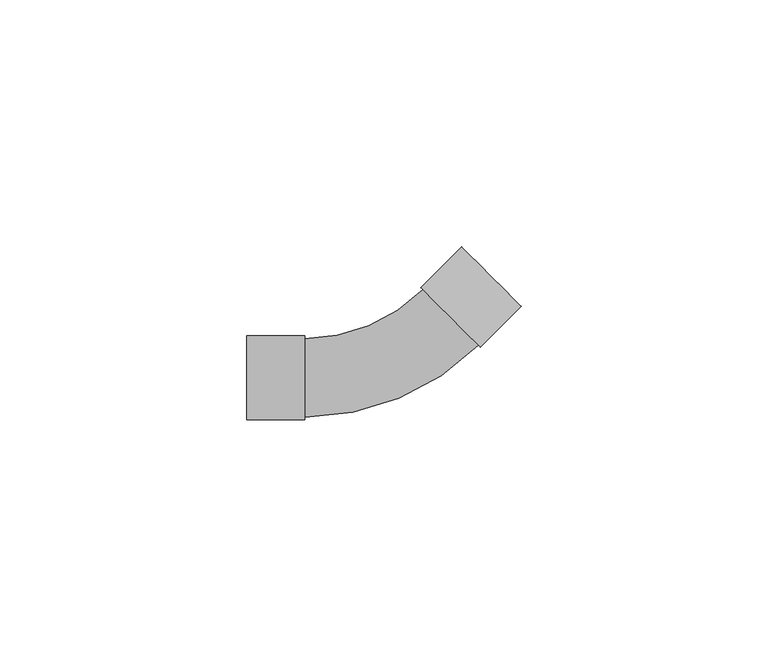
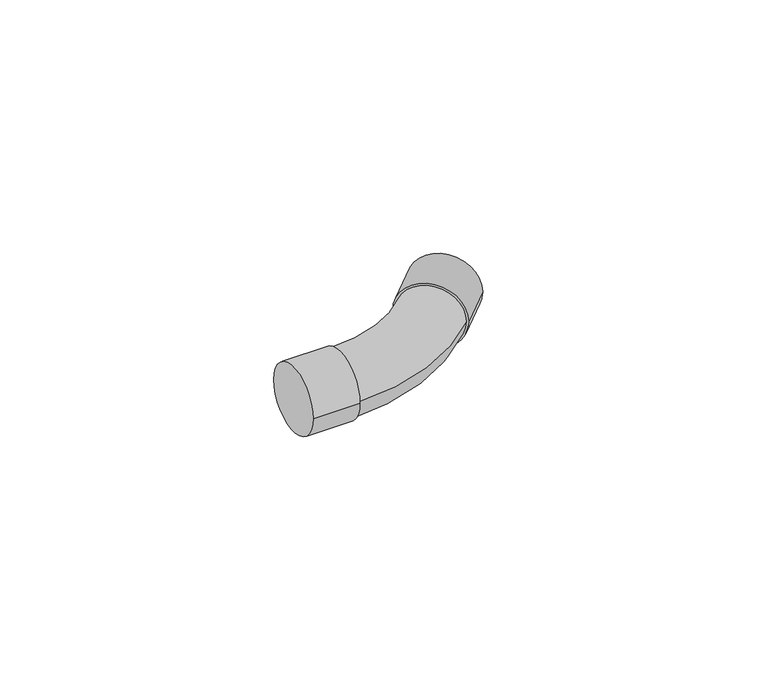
"""IFC4 building model written with IfcOpenShell, lengths in millimetres: pipe fitting geometry, Cotovelo - Soldado - CU : Padrão."""

import ifcopenshell
import ifcopenshell.guid

model = None  # the IFC model being written
_history = None  # IfcOwnerHistory: only IFC2X3 demands one
_inside = {}  # id of a spatial element -> (the spatial element, [elements in it])
_under = {}  # id of a project, library or spatial element -> (it, [spatial elements below it])
_declared = {}  # id of a project -> (the project, [libraries it declares])
_typed = {}  # id of a type object -> (the type object, [elements of that type])
_made_of = {}  # id of a material, layer set ... -> (it, [elements and type objects made of it])


def new_model(schema):
    """Start an empty IFC model of exactly this schema.

    Asked for "IFC4X3", IfcOpenShell would pick the latest addendum, in which some entities
    have other attributes; the version numbers below select the first issue.
    IFC2X3 requires an IfcOwnerHistory on every rooted entity: one is made here for all.
    """
    global model, _history
    if schema == "IFC4X3":
        model = ifcopenshell.file(schema_version=(4, 3, 0, 0))
    else:
        model = ifcopenshell.file(schema=schema)
    _inside.clear()
    _under.clear()
    _declared.clear()
    _typed.clear()
    _made_of.clear()
    _history = None
    if model.schema == "IFC2X3":
        org = make("IfcOrganization", Name="unknown")
        user = make(
            "IfcPersonAndOrganization",
            ThePerson=make("IfcPerson", FamilyName="unknown"),
            TheOrganization=org,
        )
        app = make(
            "IfcApplication",
            ApplicationDeveloper=org,
            Version="unknown",
            ApplicationFullName="unknown",
            ApplicationIdentifier="unknown",
        )
        _history = make(
            "IfcOwnerHistory",
            OwningUser=user,
            OwningApplication=app,
            ChangeAction="ADDED",
            CreationDate=0,
        )
    return model


def make(cls, **values):
    """One entity of the class cls with the attributes given. An attribute that is None is left unset."""
    return model.create_entity(
        cls, **{name: value for name, value in values.items() if value is not None}
    )


def rooted(cls, **values):
    """An entity with a GlobalId (a new one), such as an element, a storey or a relation."""
    return make(cls, GlobalId=ifcopenshell.guid.new(), OwnerHistory=_history, **values)


def si_unit(unit_type, name, prefix=None):
    """IfcSIUnit, for example si_unit("LENGTHUNIT", "METRE", prefix="MILLI")."""
    return make("IfcSIUnit", UnitType=unit_type, Prefix=prefix, Name=name)


def assignment(units):
    """IfcUnitAssignment: the units of a project."""
    return None if units is None else make("IfcUnitAssignment", Units=units)


def point(xyz):
    """IfcCartesianPoint."""
    return None if xyz is None else make("IfcCartesianPoint", Coordinates=xyz)


def direction(xyz):
    """IfcDirection."""
    return None if xyz is None else make("IfcDirection", DirectionRatios=xyz)


def frame(location, z_axis=None, x_axis=None):
    """IfcAxis2Placement3D, a coordinate frame: its origin and axes. An axis left out is left unset."""
    return make(
        "IfcAxis2Placement3D",
        Location=point(location),
        Axis=direction(z_axis),
        RefDirection=direction(x_axis),
    )


def origin():
    """The frame at (0, 0, 0) with its axes left unset."""
    return frame((0.0, 0.0, 0.0))


def place(relative_to, where):
    """IfcLocalPlacement: puts the frame where relative to a parent placement (None: the world)."""
    return make(
        "IfcLocalPlacement", PlacementRelTo=relative_to, RelativePlacement=where
    )


def context(
    kind, dimensions, precision=None, world=None, true_north=None, identifier=None
):
    """IfcGeometricRepresentationContext, for example the 3D "Model" context."""
    return make(
        "IfcGeometricRepresentationContext",
        ContextIdentifier=identifier,
        ContextType=kind,
        CoordinateSpaceDimension=dimensions,
        Precision=precision,
        WorldCoordinateSystem=world,
        TrueNorth=true_north,
    )


def project(units=None, contexts=None):
    """IfcProject with its units and contexts."""
    return rooted(
        "IfcProject",
        Name="project",
        RepresentationContexts=contexts,
        UnitsInContext=assignment(units),
    )


def spatial(cls, under=None, at=None, **own):
    """A site, building, storey or space (cls), placed at a placement, below another one or the project."""
    s = rooted(cls, ObjectPlacement=at, **own)
    if under is not None:
        _under.setdefault(under.id(), (under, []))[1].append(s)
    return s


def circle_curve(where, radius):
    """IfcCircle in the frame where."""
    return make("IfcCircle", Position=where, Radius=radius)


def ellipse_curve(where, semi_axis1, semi_axis2):
    """IfcEllipse in the frame where."""
    return make(
        "IfcEllipse", Position=where, SemiAxis1=semi_axis1, SemiAxis2=semi_axis2
    )


def trimmed(basis, trim1, trim2, sense, master):
    """IfcTrimmedCurve: the piece of a basis curve between two trims."""
    return make(
        "IfcTrimmedCurve",
        BasisCurve=basis,
        Trim1=trim1,
        Trim2=trim2,
        SenseAgreement=sense,
        MasterRepresentation=master,
    )


def shape(context_of_items, identifier, shape_type, items):
    """IfcShapeRepresentation: the items that make up one representation, for example the "Body"."""
    return make(
        "IfcShapeRepresentation",
        ContextOfItems=context_of_items,
        RepresentationIdentifier=identifier,
        RepresentationType=shape_type,
        Items=items,
    )


def source(mapping_origin, context_of_items, identifier, shape_type, items):
    """IfcRepresentationMap: a shape defined once, which mapped items show again and again."""
    return make(
        "IfcRepresentationMap",
        MappingOrigin=mapping_origin,
        MappedRepresentation=shape(context_of_items, identifier, shape_type, items),
    )


def transform(
    local_origin,
    x_axis=None,
    y_axis=None,
    z_axis=None,
    scale=None,
    scale2=None,
    scale3=None,
    uniform=True,
):
    """IfcCartesianTransformationOperator3D, or its non-uniform kind. x_axis, y_axis, z_axis: its Axis1, 2, 3."""
    if uniform:
        return make(
            "IfcCartesianTransformationOperator3D",
            Axis1=direction(x_axis),
            Axis2=direction(y_axis),
            LocalOrigin=point(local_origin),
            Scale=scale,
            Axis3=direction(z_axis),
        )
    return make(
        "IfcCartesianTransformationOperator3DnonUniform",
        Axis1=direction(x_axis),
        Axis2=direction(y_axis),
        LocalOrigin=point(local_origin),
        Scale=scale,
        Axis3=direction(z_axis),
        Scale2=scale2,
        Scale3=scale3,
    )


def mapped(mapping_source, mapping_target):
    """IfcMappedItem: shows the shape of a source again, moved by a transform."""
    return make(
        "IfcMappedItem", MappingSource=mapping_source, MappingTarget=mapping_target
    )


def made_of(thing, what):
    """Note that an element or type object is made of a material, layer set ...; save() writes the relation."""
    if what is not None:
        _made_of.setdefault(what.id(), (what, []))[1].append(thing)
    return thing


def element(
    cls,
    number,
    at=None,
    inside=None,
    cuts=None,
    type_object=None,
    material=None,
    context=None,
    identifier="Body",
    shape_type=None,
    held_by="IfcProductDefinitionShape",
    body=None,
    shapes=None,
    **own,
):
    """One element of the class cls, such as IfcWall. Its Tag is "e" and its number.

    at: its placement. inside: the storey or other place that contains it. cuts: it is an
    opening in that element (IfcRelVoidsElement). A single representation is given by context,
    identifier, shape_type and body (its items); several are given by shapes. held_by: the class
    of the entity that holds the representations. save() writes the other relations.
    """
    e = rooted(cls, Tag="e%d" % number, ObjectPlacement=at, **own)
    if body is not None:
        shapes = [shape(context, identifier, shape_type, body)]
    if shapes is not None:
        e.Representation = make(held_by, Representations=shapes)
    if inside is not None:
        _inside.setdefault(inside.id(), (inside, []))[1].append(e)
    if cuts is not None:
        rooted(
            "IfcRelVoidsElement", RelatingBuildingElement=cuts, RelatedOpeningElement=e
        )
    if type_object is not None:
        _typed.setdefault(type_object.id(), (type_object, []))[1].append(e)
    return made_of(e, material)


def aggregate(whole, parts):
    """IfcRelAggregates: a whole, such as a stair, and the parts it consists of."""
    return rooted("IfcRelAggregates", RelatingObject=whole, RelatedObjects=parts)


def save(model, path):
    """Write the relations noted so far, then the file.

    IfcRelAggregates (storeys below a building ...), IfcRelContainedInSpatialStructure (elements
    in a storey), IfcRelDefinesByType, IfcRelAssociatesMaterial and IfcRelDeclares: one each for
    every whole, place, type object, material and project.
    """
    for whole, parts in _under.values():
        aggregate(whole, parts)
    for where, things in _inside.values():
        rooted(
            "IfcRelContainedInSpatialStructure",
            RelatedElements=things,
            RelatingStructure=where,
        )
    for kind, things in _typed.values():
        rooted("IfcRelDefinesByType", RelatedObjects=things, RelatingType=kind)
    for what, things in _made_of.values():
        rooted("IfcRelAssociatesMaterial", RelatedObjects=things, RelatingMaterial=what)
    for by, libraries in _declared.values():
        rooted("IfcRelDeclares", RelatingContext=by, RelatedDefinitions=libraries)
    model.write(path)


def plane_surface(at):
    """IfcPlane: the flat surface through the origin of the frame at, square to its z axis."""
    return make("IfcPlane", Position=at)


def cylinder_surface(at, radius):
    """IfcCylindricalSurface: all points at the distance radius from the z axis of the frame at."""
    return make("IfcCylindricalSurface", Position=at, Radius=radius)


def revolved_surface(curve, axis_point, axis_direction):
    """IfcSurfaceOfRevolution: the curve turned about the line through axis_point along axis_direction."""
    return make(
        "IfcSurfaceOfRevolution",
        SweptCurve=make("IfcArbitraryOpenProfileDef", ProfileType="CURVE", Curve=curve),
        AxisPosition=make("IfcAxis1Placement", Location=point(axis_point), Axis=direction(axis_direction)),
    )


def advanced_brep(points, edges, surfaces, faces):
    """IfcAdvancedBrep: a solid bounded by faces that lie on surfaces and meet in shared edges.

    An edge is (start, end): straight between two places in points (the first is 0);
    or (start, end, curve); or (start, end, curve, False) where it runs against its curve.
    A face is (place in surfaces, loops), or (place, loops, False) where it looks against
    its surface's normal. A loop lists edges by number (the first is 1), with a minus sign
    where the edge is run from its end to its start. The first loop is the outer one.
    """
    corners = [point(p) for p in points]
    vertices = [make("IfcVertexPoint", VertexGeometry=c) for c in corners]
    made = []
    for start, end, *more in edges:
        made.append(
            make(
                "IfcEdgeCurve",
                EdgeStart=vertices[start],
                EdgeEnd=vertices[end],
                EdgeGeometry=more[0] if more else make("IfcPolyline", Points=[corners[start], corners[end]]),
                SameSense=more[1] if len(more) > 1 else True,
            )
        )
    hull = []
    for where, loops, *sense in faces:
        bounds = []
        for j, loop in enumerate(loops):
            ring = [make("IfcOrientedEdge", EdgeElement=made[abs(k) - 1], Orientation=k > 0) for k in loop]
            bounds.append(
                make(
                    "IfcFaceOuterBound" if j == 0 else "IfcFaceBound",
                    Bound=make("IfcEdgeLoop", EdgeList=ring),
                    Orientation=True,
                )
            )
        hull.append(make("IfcAdvancedFace", Bounds=bounds, FaceSurface=surfaces[where], SameSense=sense[0] if sense else True))
    return make("IfcAdvancedBrep", Outer=make("IfcClosedShell", CfsFaces=hull))


def pipe_fitting_a9265b51(model_context):
    return source(origin(), model_context, "Body", "AdvancedBrep", [
        advanced_brep(
        [(6.635985, 17.8577696, 0.0), (-17.3197, 7.935, 0.0), (-17.3197, -7.935, 0.0), (17.8577696, 6.635985, 0.0), (-28.9786, -8.4937, 0.0), (-28.9786, 8.4937, 0.0), (-17.3197, -8.4937, 0.0), (-17.3197, 8.4937, 0.0), (14.4850117, 26.4969174, 0.0), (26.4969174, 14.4850117, 0.0), (6.2409245, 18.2528302, 0.0), (18.2528302, 6.2409245, 0.0)],
        [
            (0, 1, circle_curve(frame((-17.3197, 41.8134546, 0.0), z_axis=(0.0, 0.0, -1.0), x_axis=(0.0, -1.0, 0.0)), 33.8784546)),
            (1, 2, circle_curve(frame((-17.3197, 0.0, 0.0), z_axis=(1.0, 0.0, 0.0), x_axis=(0.0, 1.0, 0.0)), 7.935)),
            (2, 3, circle_curve(frame((-17.3197, 41.8134546, 0.0), z_axis=(0.0, 0.0, 1.0), x_axis=(0.0, -1.0, 0.0)), 49.7484546)),
            (3, 0, circle_curve(frame((12.2468773, 12.2468773, 0.0), z_axis=(-0.7071067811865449, -0.7071067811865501, 0.0), x_axis=(-0.7071067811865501, 0.7071067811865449, 0.0)), 7.935)),
            (0, 3, circle_curve(frame((12.2468773, 12.2468773, 0.0), z_axis=(-0.7071067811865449, -0.7071067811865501, 0.0), x_axis=(-0.7071067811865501, 0.7071067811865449, 0.0)), 7.935)),
            (2, 1, circle_curve(frame((-17.3197, 0.0, 0.0), z_axis=(1.0, 0.0, 0.0), x_axis=(0.0, 1.0, 0.0)), 7.935)),
            (4, 5, circle_curve(frame((-28.9786, 0.0, 0.0), z_axis=(-1.0, 0.0, 0.0), x_axis=(0.0, 1.0, 0.0)), 8.4937)),
            (5, 4, circle_curve(frame((-28.9786, 0.0, 0.0), z_axis=(-1.0, 0.0, 0.0), x_axis=(0.0, 1.0, 0.0)), 8.4937)),
            (6, 7, circle_curve(frame((-17.3197, 0.0, 0.0), z_axis=(1.0, 0.0, 0.0), x_axis=(0.0, 1.0, 0.0)), 8.4937)),
            (7, 6, circle_curve(frame((-17.3197, 0.0, 0.0), z_axis=(1.0, 0.0, 0.0), x_axis=(0.0, 1.0, 0.0)), 8.4937)),
            (4, 6),
            (7, 5),
            (8, 9, circle_curve(frame((20.4909646, 20.4909646, 0.0), z_axis=(0.7071067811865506, 0.7071067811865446, 0.0), x_axis=(0.7071067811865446, -0.7071067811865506, 0.0)), 8.4937)),
            (9, 8, circle_curve(frame((20.4909646, 20.4909646, 0.0), z_axis=(0.7071067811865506, 0.7071067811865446, 0.0), x_axis=(0.7071067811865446, -0.7071067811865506, 0.0)), 8.4937)),
            (10, 11, circle_curve(frame((12.2468773, 12.2468773, 0.0), z_axis=(-0.7071067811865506, -0.7071067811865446, 0.0), x_axis=(0.7071067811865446, -0.7071067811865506, 0.0)), 8.4937)),
            (11, 10, circle_curve(frame((12.2468773, 12.2468773, 0.0), z_axis=(-0.7071067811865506, -0.7071067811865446, 0.0), x_axis=(0.7071067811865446, -0.7071067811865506, 0.0)), 8.4937)),
            (8, 10),
            (11, 9),
        ],
        [
            revolved_surface(trimmed(ellipse_curve(frame((-17.3197, 0.0, 0.0), z_axis=(-1.0, 0.0, 0.0), x_axis=(0.0, 1.0, 0.0)), 7.935, 7.935), [point((-17.3197, -7.935, 0.0))], [point((-17.3197, 7.935, 0.0))], True, "CARTESIAN"), (-17.3197, 41.8134546, 0.0), (0.0, 0.0, 1.0)),
            revolved_surface(trimmed(ellipse_curve(frame((-17.3197, 0.0, 0.0), z_axis=(-1.0, 0.0, 0.0), x_axis=(0.0, 1.0, 0.0)), 7.935, 7.935), [point((-17.3197, 7.935, 0.0))], [point((-17.3197, -7.935, 0.0))], True, "CARTESIAN"), (-17.3197, 41.8134546, 0.0), (0.0, 0.0, 1.0)),
            plane_surface(frame((-28.9786, 0.0, 0.0), z_axis=(-1.0, 0.0, 0.0), x_axis=(0.0, 0.0, 1.0))),
            plane_surface(frame((-17.3197, 0.0, 0.0), z_axis=(1.0, 0.0, 0.0), x_axis=(0.0, 0.0, 1.0))),
            cylinder_surface(frame((-28.9786, 0.0, 0.0), z_axis=(-1.0, 0.0, 0.0), x_axis=(0.0, 1.0, 0.0)), 8.4937),
            plane_surface(frame((20.4909646, 20.4909646, 0.0), z_axis=(0.7071067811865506, 0.7071067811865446, 0.0), x_axis=(0.0, 0.0, 1.0))),
            plane_surface(frame((12.2468773, 12.2468773, 0.0), z_axis=(-0.7071067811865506, -0.7071067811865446, 0.0), x_axis=(0.0, 0.0, 1.0))),
            cylinder_surface(frame((20.4909646, 20.4909646, 0.0), z_axis=(0.7071067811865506, 0.7071067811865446, 0.0), x_axis=(0.7071067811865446, -0.7071067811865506, 0.0)), 8.4937),
        ],
        [
            (0, [[1, 2, 3, 4]]),
            (1, [[-1, 5, -3, 6]]),
            (2, [[7, 8]]),
            (3, [[9, 10], [-2, -6]]),
            (4, [[-7, 11, -10, 12]]),
            (4, [[-8, -12, -9, -11]]),
            (5, [[13, 14]]),
            (6, [[15, 16], [-4, -5]]),
            (7, [[-13, 17, -16, 18]]),
            (7, [[-14, -18, -15, -17]]),
        ],
    ),
    ])


if __name__ == "__main__":
    model = new_model("IFC4")
    model_context = context("Model", 3, world=origin())
    ifc_project = project(units=[si_unit("LENGTHUNIT", "METRE", prefix="MILLI")], contexts=[model_context])
    site = spatial("IfcSite", under=ifc_project)
    building = spatial("IfcBuilding", under=site)
    placement = place(None, origin())
    pipe_fitting_shape = pipe_fitting_a9265b51(model_context)
    element("IfcPipeFitting", 1, ObjectType="Cotovelo - Soldado - CU : Padrão", at=placement, inside=building, context=model_context, shape_type="MappedRepresentation", body=[
        mapped(pipe_fitting_shape, transform((0.0, 0.0, 0.0), x_axis=(1.0, 0.0, 0.0), y_axis=(0.0, 1.0, 0.0), z_axis=(0.0, 0.0, 1.0))),
    ])
    save(model, "model.ifc")
